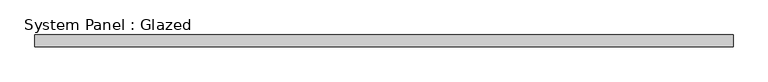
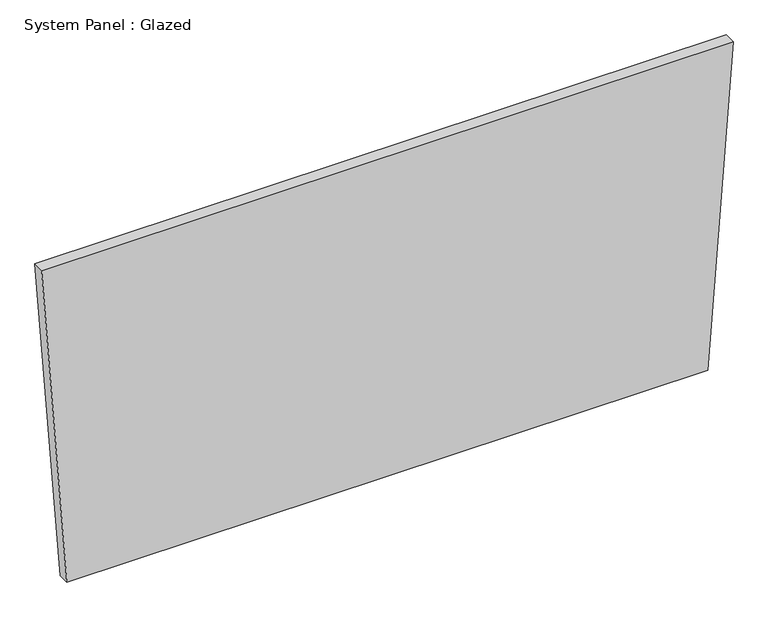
"""IFC4 building model written with IfcOpenShell, lengths in millimetres: plate geometry, System Panel : Glazed."""

from ifc_helpers import new_model, si_unit, frame, origin, place, context, project, spatial, polyline, outline, extrude, source, transform, mapped, element, save


def system_panel_glazed_dc56a07b(model_context):
    return source(origin(), model_context, "Body", "SweptSolid", [
        extrude(outline(polyline([(0.0010289, -705.8573666), (0.0, 705.8573727), (745.4858809, 761.3857906), (745.4869908, -761.3857906), (0.0010289, -705.8573666)])), frame((0.0, 19.05, 0.0), z_axis=(0.0, 1.0, 0.0), x_axis=(0.0, 0.0, 1.0)), (0.0, 0.0, 1.0), 25.4),
    ])


if __name__ == "__main__":
    model = new_model("IFC4")
    model_context = context("Model", 3, world=origin())
    ifc_project = project(units=[si_unit("LENGTHUNIT", "METRE", prefix="MILLI")], contexts=[model_context])
    site = spatial("IfcSite", under=ifc_project)
    building = spatial("IfcBuilding", under=site)
    placement = place(None, origin())
    system_panel_glazed_shape = system_panel_glazed_dc56a07b(model_context)
    element("IfcPlate", 1, ObjectType="System Panel : Glazed", at=placement, inside=building, context=model_context, shape_type="MappedRepresentation", body=[
        mapped(system_panel_glazed_shape, transform((0.0, 0.0, 0.0), x_axis=(1.0, 0.0, 0.0), y_axis=(0.0, 1.0, 0.0), z_axis=(0.0, 0.0, 1.0))),
    ])
    save(model, "model.ifc")
